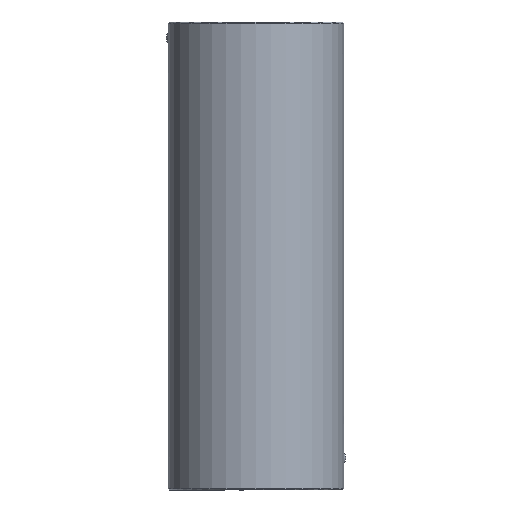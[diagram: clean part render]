
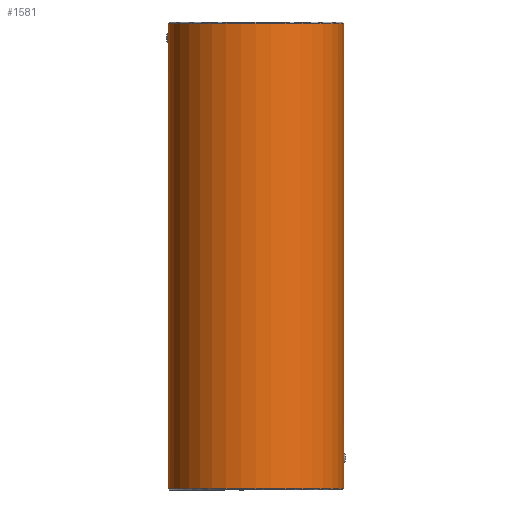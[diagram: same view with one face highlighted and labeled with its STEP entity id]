
A CAD part, front view. The second image highlights one B-rep face of the part: STEP entity #1581.
In plain terms, the highlighted cylindrical face has radius 22.5 mm (diameter 45 mm), a partial arc.
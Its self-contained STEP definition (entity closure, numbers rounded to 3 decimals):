
#1363=CARTESIAN_POINT('Vertex',(-22.5,0.,0.3)) ;
#1370=CARTESIAN_POINT('Vertex',(22.5,0.,0.3)) ;
#1373=CARTESIAN_POINT('Axis2P3D Location',(0.,0.,0.3)) ;
#1491=CARTESIAN_POINT('Axis2P3D Location',(0.,0.,120.)) ;
#1496=CARTESIAN_POINT('Line Origine',(22.5,0.,120.)) ;
#1500=CARTESIAN_POINT('Vertex',(22.5,0.,6.877)) ;
#1504=CARTESIAN_POINT('Control Point',(22.458,-1.369,8.201)) ;
#1505=CARTESIAN_POINT('Control Point',(22.458,-1.369,7.777)) ;
#1506=CARTESIAN_POINT('Control Point',(22.469,-1.194,7.356)) ;
#1507=CARTESIAN_POINT('Control Point',(22.49,-0.847,7.034)) ;
#1508=CARTESIAN_POINT('Control Point',(22.5,-0.424,6.877)) ;
#1509=CARTESIAN_POINT('Control Point',(22.5,0.,6.877)) ;
#1510=CARTESIAN_POINT('Vertex',(22.458,-1.369,8.201)) ;
#1514=CARTESIAN_POINT('Control Point',(22.5,0.,9.523)) ;
#1515=CARTESIAN_POINT('Control Point',(22.5,-0.423,9.523)) ;
#1516=CARTESIAN_POINT('Control Point',(22.49,-0.842,9.368)) ;
#1517=CARTESIAN_POINT('Control Point',(22.469,-1.194,9.046)) ;
#1518=CARTESIAN_POINT('Control Point',(22.458,-1.368,8.624)) ;
#1519=CARTESIAN_POINT('Control Point',(22.458,-1.369,8.201)) ;
#1520=CARTESIAN_POINT('Vertex',(22.5,0.,9.523)) ;
#1523=CARTESIAN_POINT('Line Origine',(22.5,0.,120.)) ;
#1527=CARTESIAN_POINT('Vertex',(22.5,0.,119.7)) ;
#1530=CARTESIAN_POINT('Axis2P3D Location',(0.,0.,119.7)) ;
#1534=CARTESIAN_POINT('Vertex',(-22.5,0.,119.7)) ;
#1537=CARTESIAN_POINT('Line Origine',(-22.5,0.,120.)) ;
#1541=CARTESIAN_POINT('Vertex',(-22.5,0.,117.223)) ;
#1545=CARTESIAN_POINT('Control Point',(-22.458,-1.369,115.899)) ;
#1546=CARTESIAN_POINT('Control Point',(-22.458,-1.369,116.323)) ;
#1547=CARTESIAN_POINT('Control Point',(-22.469,-1.194,116.744)) ;
#1548=CARTESIAN_POINT('Control Point',(-22.49,-0.847,117.066)) ;
#1549=CARTESIAN_POINT('Control Point',(-22.5,-0.424,117.223)) ;
#1550=CARTESIAN_POINT('Control Point',(-22.5,0.,117.223)) ;
#1551=CARTESIAN_POINT('Vertex',(-22.458,-1.369,115.899)) ;
#1555=CARTESIAN_POINT('Control Point',(-22.5,0.,114.577)) ;
#1556=CARTESIAN_POINT('Control Point',(-22.5,-0.423,114.577)) ;
#1557=CARTESIAN_POINT('Control Point',(-22.49,-0.842,114.732)) ;
#1558=CARTESIAN_POINT('Control Point',(-22.469,-1.194,115.054)) ;
#1559=CARTESIAN_POINT('Control Point',(-22.458,-1.368,115.476)) ;
#1560=CARTESIAN_POINT('Control Point',(-22.458,-1.369,115.899)) ;
#1561=CARTESIAN_POINT('Vertex',(-22.5,0.,114.577)) ;
#1564=CARTESIAN_POINT('Line Origine',(-22.5,0.,120.)) ;
#1374=DIRECTION('Axis2P3D Direction',(0.,-0.,1.)) ;
#1492=DIRECTION('Axis2P3D Direction',(0.,0.,-1.)) ;
#1493=DIRECTION('Axis2P3D XDirection',(1.,0.,0.)) ;
#1497=DIRECTION('Vector Direction',(0.,0.,-1.)) ;
#1524=DIRECTION('Vector Direction',(0.,0.,-1.)) ;
#1531=DIRECTION('Axis2P3D Direction',(0.,0.,-1.)) ;
#1538=DIRECTION('Vector Direction',(0.,0.,-1.)) ;
#1565=DIRECTION('Vector Direction',(0.,0.,-1.)) ;
#1375=AXIS2_PLACEMENT_3D('Circle Axis2P3D',#1373,#1374,$) ;
#1494=AXIS2_PLACEMENT_3D('Cylinder Axis2P3D',#1491,#1492,#1493) ;
#1532=AXIS2_PLACEMENT_3D('Circle Axis2P3D',#1530,#1531,$) ;
#1570=ORIENTED_EDGE('',*,*,#1502,.T.) ;
#1571=ORIENTED_EDGE('',*,*,#1512,.F.) ;
#1572=ORIENTED_EDGE('',*,*,#1522,.F.) ;
#1573=ORIENTED_EDGE('',*,*,#1529,.T.) ;
#1574=ORIENTED_EDGE('',*,*,#1536,.F.) ;
#1575=ORIENTED_EDGE('',*,*,#1543,.T.) ;
#1576=ORIENTED_EDGE('',*,*,#1553,.F.) ;
#1577=ORIENTED_EDGE('',*,*,#1563,.F.) ;
#1578=ORIENTED_EDGE('',*,*,#1568,.T.) ;
#1579=ORIENTED_EDGE('',*,*,#1377,.T.) ;
#1498=VECTOR('Line Direction',#1497,1.) ;
#1525=VECTOR('Line Direction',#1524,1.) ;
#1539=VECTOR('Line Direction',#1538,1.) ;
#1566=VECTOR('Line Direction',#1565,1.) ;
#1581=ADVANCED_FACE('730-38x120',(#1580),#1495,.T.) ;
#1503=B_SPLINE_CURVE_WITH_KNOTS('',5,(#1504,#1505,#1506,#1507,#1508,#1509),.UNSPECIFIED.,.F.,.U.,(6,6),(0.,3.001),.UNSPECIFIED.) ;
#1513=B_SPLINE_CURVE_WITH_KNOTS('',5,(#1514,#1515,#1516,#1517,#1518,#1519),.UNSPECIFIED.,.F.,.U.,(6,6),(0.,2.995),.UNSPECIFIED.) ;
#1544=B_SPLINE_CURVE_WITH_KNOTS('',5,(#1545,#1546,#1547,#1548,#1549,#1550),.UNSPECIFIED.,.F.,.U.,(6,6),(0.,3.001),.UNSPECIFIED.) ;
#1554=B_SPLINE_CURVE_WITH_KNOTS('',5,(#1555,#1556,#1557,#1558,#1559,#1560),.UNSPECIFIED.,.F.,.U.,(6,6),(0.,2.995),.UNSPECIFIED.) ;
#1376=CIRCLE('generated circle',#1375,22.5) ;
#1533=CIRCLE('generated circle',#1532,22.5) ;
#1495=CYLINDRICAL_SURFACE('generated cylinder',#1494,22.5) ;
#1377=EDGE_CURVE('',#1364,#1371,#1376,.T.) ;
#1502=EDGE_CURVE('',#1371,#1501,#1499,.F.) ;
#1512=EDGE_CURVE('',#1511,#1501,#1503,.T.) ;
#1522=EDGE_CURVE('',#1521,#1511,#1513,.T.) ;
#1529=EDGE_CURVE('',#1521,#1528,#1526,.F.) ;
#1536=EDGE_CURVE('',#1535,#1528,#1533,.F.) ;
#1543=EDGE_CURVE('',#1535,#1542,#1540,.T.) ;
#1553=EDGE_CURVE('',#1552,#1542,#1544,.T.) ;
#1563=EDGE_CURVE('',#1562,#1552,#1554,.T.) ;
#1568=EDGE_CURVE('',#1562,#1364,#1567,.T.) ;
#1569=EDGE_LOOP('',(#1570,#1571,#1572,#1573,#1574,#1575,#1576,#1577,#1578,#1579)) ;
#1580=FACE_OUTER_BOUND('',#1569,.T.) ;
#1499=LINE('Line',#1496,#1498) ;
#1526=LINE('Line',#1523,#1525) ;
#1540=LINE('Line',#1537,#1539) ;
#1567=LINE('Line',#1564,#1566) ;
#1364=VERTEX_POINT('',#1363) ;
#1371=VERTEX_POINT('',#1370) ;
#1501=VERTEX_POINT('',#1500) ;
#1511=VERTEX_POINT('',#1510) ;
#1521=VERTEX_POINT('',#1520) ;
#1528=VERTEX_POINT('',#1527) ;
#1535=VERTEX_POINT('',#1534) ;
#1542=VERTEX_POINT('',#1541) ;
#1552=VERTEX_POINT('',#1551) ;
#1562=VERTEX_POINT('',#1561) ;
